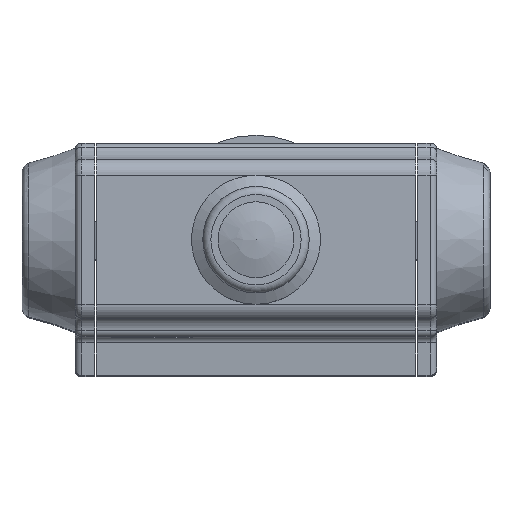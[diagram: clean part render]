
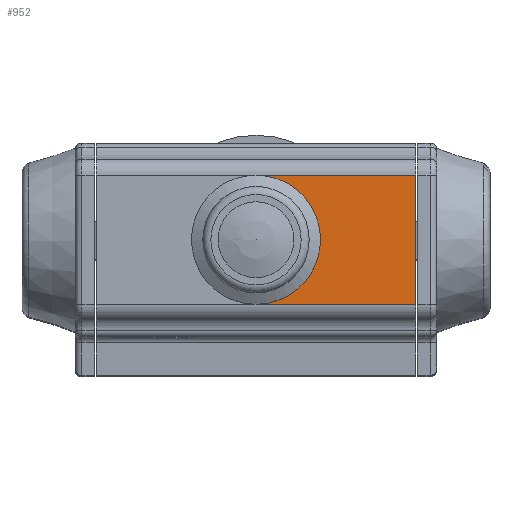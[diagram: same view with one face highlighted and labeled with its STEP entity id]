
A CAD part, top view. The second image highlights one B-rep face of the part: STEP entity #952.
In plain terms, the highlighted planar face has unit normal (0, 0, 1).
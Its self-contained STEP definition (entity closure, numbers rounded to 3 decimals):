
#952 = ADVANCED_FACE( '', ( #2181 ), #2182, .T. );
#2181 = FACE_OUTER_BOUND( '', #4014, .T. );
#2182 = PLANE( '', #4015 );
#4014 = EDGE_LOOP( '', ( #7594, #7595, #7596, #7597 ) );
#4015 = AXIS2_PLACEMENT_3D( '', #7598, #7599, #7600 );
#7594 = ORIENTED_EDGE( '', *, *, #10475, .T. );
#7595 = ORIENTED_EDGE( '', *, *, #11239, .F. );
#7596 = ORIENTED_EDGE( '', *, *, #11196, .T. );
#7597 = ORIENTED_EDGE( '', *, *, #11240, .T. );
#7598 = CARTESIAN_POINT( '', ( 49.5, -20., 36.5 ) );
#7599 = DIRECTION( '', ( 0., 0., 1. ) );
#7600 = DIRECTION( '', ( 0., -1., 0. ) );
#10475 = EDGE_CURVE( '', #12246, #12245, #12248, .T. );
#11196 = EDGE_CURVE( '', #13391, #13389, #13392, .T. );
#11239 = EDGE_CURVE( '', #13391, #12245, #13452, .T. );
#11240 = EDGE_CURVE( '', #13389, #12246, #13453, .T. );
#12245 = VERTEX_POINT( '', #15298 );
#12246 = VERTEX_POINT( '', #15299 );
#12248 = CIRCLE( '', #15301, 20. );
#13389 = VERTEX_POINT( '', #18869 );
#13391 = VERTEX_POINT( '', #18871 );
#13392 = LINE( '', #18872, #18873 );
#13452 = LINE( '', #19035, #19036 );
#13453 = LINE( '', #19037, #19038 );
#15298 = CARTESIAN_POINT( '', ( 0., -20., 36.5 ) );
#15299 = CARTESIAN_POINT( '', ( 0., 20., 36.5 ) );
#15301 = AXIS2_PLACEMENT_3D( '', #21267, #21268, #21269 );
#18869 = CARTESIAN_POINT( '', ( 49.5, 20., 36.5 ) );
#18871 = CARTESIAN_POINT( '', ( 49.5, -20., 36.5 ) );
#18872 = CARTESIAN_POINT( '', ( 49.5, -20., 36.5 ) );
#18873 = VECTOR( '', #21986, 1000. );
#19035 = CARTESIAN_POINT( '', ( 49.5, -20., 36.5 ) );
#19036 = VECTOR( '', #22044, 1000. );
#19037 = CARTESIAN_POINT( '', ( 49.5, 20., 36.5 ) );
#19038 = VECTOR( '', #22045, 1000. );
#21267 = CARTESIAN_POINT( '', ( 0., 0., 36.5 ) );
#21268 = DIRECTION( '', ( 0., 0., -1. ) );
#21269 = DIRECTION( '', ( -1., 0., 0. ) );
#21986 = DIRECTION( '', ( 0., 1., 0. ) );
#22044 = DIRECTION( '', ( -1., 0., 0. ) );
#22045 = DIRECTION( '', ( -1., 0., 0. ) );
